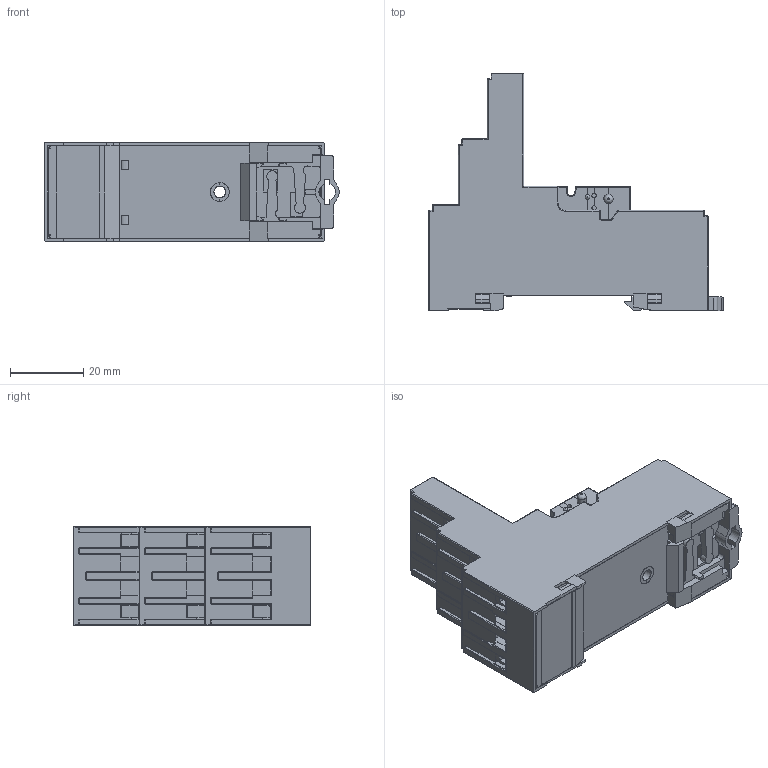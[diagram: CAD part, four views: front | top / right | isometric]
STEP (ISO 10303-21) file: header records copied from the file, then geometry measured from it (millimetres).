
FILE_DESCRIPTION(('STEP AP214'),'2;1');
FILE_NAME('94923.stp','2011-12-13T11:44:30',(''),(''),'2007.1.106','THINKDESIGN','');
FILE_SCHEMA(('AUTOMOTIVE_DESIGN'));
Products named in the file (1): None
Bounding box: 80.33 x 64.93 x 27 mm (x, y, z)
Surface area: 24199.7 mm2 (no closed solid volume)
Topology: 0 solids, 0 shells, 992 faces, 5467 edges, 5452 vertices
Faces by surface type: plane 632, cylinder 259, bspline 101
Full cylindrical faces by diameter (mm): 1.2 x4, 2.5 x2, 3.2 x1, 3.6 x1, 4.7 x8, 5.3 x14
Entity records: 60950 total; most frequent: CARTESIAN_POINT 21496, DIRECTION 6835, COMPOSITE_CURVE_SEGMENT 5346, TRIMMED_CURVE 4494, VECTOR 4023, LINE 4023, AXIS2_PLACEMENT_3D 1406, STYLED_ITEM 1039
